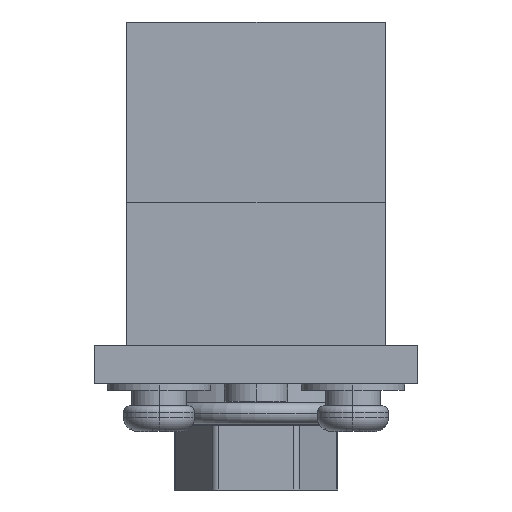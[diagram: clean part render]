
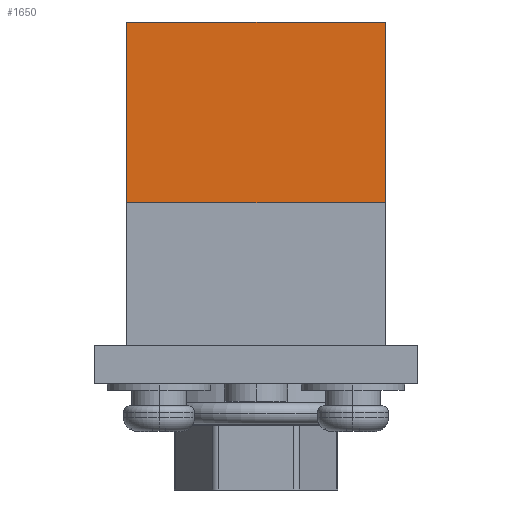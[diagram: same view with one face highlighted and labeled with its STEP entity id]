
A CAD part, left-side view. The second image highlights one B-rep face of the part: STEP entity #1650.
In plain terms, the highlighted planar face has unit normal (-1, 0, 0).
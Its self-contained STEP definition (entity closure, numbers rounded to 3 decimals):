
#120=CARTESIAN_POINT('',(-27.488,66.46,28.));
#130=VERTEX_POINT('',#120);
#160=CARTESIAN_POINT('',(-27.488,66.46,28.));
#170=DIRECTION('',(0.,0.,-1.));
#180=VECTOR('',#170,1.);
#190=LINE('',#160,#180);
#200=CARTESIAN_POINT('',(-27.488,66.46,14.));
#210=VERTEX_POINT('',#200);
#220=EDGE_CURVE('',#130,#210,#190,.T.);
#990=CARTESIAN_POINT('',(-27.488,46.46,28.));
#1000=VERTEX_POINT('',#990);
#1030=CARTESIAN_POINT('',(-27.488,46.46,28.));
#1040=DIRECTION('',(0.,1.,0.));
#1050=VECTOR('',#1040,1.);
#1060=LINE('',#1030,#1050);
#1070=EDGE_CURVE('',#1000,#130,#1060,.T.);
#1420=CARTESIAN_POINT('',(-27.488,66.46,28.));
#1430=DIRECTION('',(1.,0.,0.));
#1440=DIRECTION('',(0.,0.,1.));
#1450=AXIS2_PLACEMENT_3D('',#1420,#1430,#1440);
#1460=PLANE('',#1450);
#1470=ORIENTED_EDGE('',*,*,#220,.T.);
#1480=ORIENTED_EDGE('',*,*,#1070,.T.);
#1490=CARTESIAN_POINT('',(-27.488,46.46,28.));
#1500=DIRECTION('',(0.,0.,-1.));
#1510=VECTOR('',#1500,1.);
#1520=LINE('',#1490,#1510);
#1530=CARTESIAN_POINT('',(-27.488,46.46,14.));
#1540=VERTEX_POINT('',#1530);
#1550=EDGE_CURVE('',#1000,#1540,#1520,.T.);
#1560=ORIENTED_EDGE('',*,*,#1550,.F.);
#1570=CARTESIAN_POINT('',(-27.488,46.46,14.));
#1580=DIRECTION('',(0.,1.,0.));
#1590=VECTOR('',#1580,1.);
#1600=LINE('',#1570,#1590);
#1610=EDGE_CURVE('',#1540,#210,#1600,.T.);
#1620=ORIENTED_EDGE('',*,*,#1610,.F.);
#1630=EDGE_LOOP('',(#1620,#1560,#1480,#1470));
#1640=FACE_OUTER_BOUND('',#1630,.T.);
#1650=ADVANCED_FACE('',(#1640),#1460,.F.);
